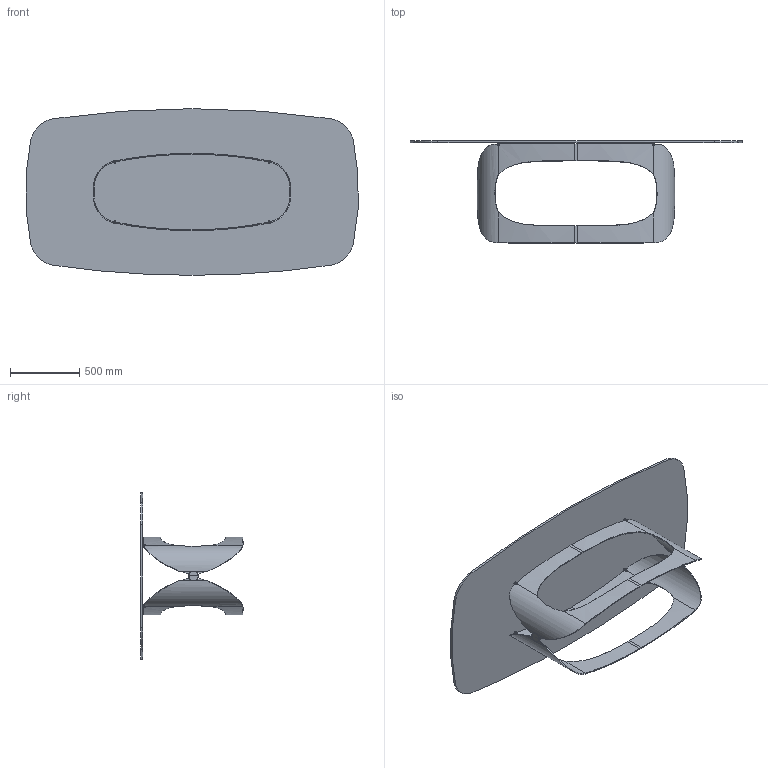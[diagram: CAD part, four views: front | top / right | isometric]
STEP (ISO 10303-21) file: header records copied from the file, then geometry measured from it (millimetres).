
FILE_DESCRIPTION (( 'STEP AP203' ), '1' );
FILE_NAME ('PO43G.STEP', '2024-08-06T14:03:24', ( '' ), ( '' ), 'SwSTEP 2.0', 'SolidWorks 2022', '' );
FILE_SCHEMA (( 'CONFIG_CONTROL_DESIGN' ));
Length unit declared in the file: millimetre
Products named in the file (11): POL000000_02-02-CILINDRO DI FISSAGGIO Ø12X15 M8; C4XCRXX-00-Piani Sagomati in Cristallo_2400 x 1200; POL000000_03-01-POLIFEMO FREGIO COMPLETO; PST0GR022-01-PIASTRA D22x22H mm+FILETTO M8 AVP-AVZ GREZZO; POL000000_03A-01-POLIFEMO FREGIO; PO43G; PVC profilo Polifemo 9x8; POL000000_01-01-MEZZA BASE POLIFEMO X PIANI 200-240_POL000000_03-00-MEZZA BASE PLIFEMO L160; POL000000_03B-00-POLIFEMO FREGIO; POL000000-00-POLIFEMO BASE X PIANI 200-240_POL000000-00-POLIFEMO BASE L160; PVC Ø19x3
Assembly tree (24 placements, depth 3):
  PO43G
    POL000000-00-POLIFEMO BASE X PIANI 200-240_POL000000-00-POLIFEMO BASE L160
      POL000000_01-01-MEZZA BASE POLIFEMO X PIANI 200-240_POL000000_03-00-MEZZA BASE PLIFEMO L160  x2
      POL000000_02-02-CILINDRO DI FISSAGGIO Ø12X15 M8  x4
    POL000000_03-01-POLIFEMO FREGIO COMPLETO  x2
      POL000000_03A-01-POLIFEMO FREGIO
      POL000000_03B-00-POLIFEMO FREGIO
    PST0GR022-01-PIASTRA D22x22H mm+FILETTO M8 AVP-AVZ GREZZO  x4
    PVC Ø19x3  x4
    PVC profilo Polifemo 9x8  x3
    C4XCRXX-00-Piani Sagomati in Cristallo_2400 x 1200
Bounding box: 2391.62 x 739.97 x 1200 mm (x, y, z)
Volume: 47029629.4 mm3; surface area: 7932160.7 mm2
Topology: 24 solids, 24 shells, 477 faces, 1183 edges, 760 vertices
Faces by surface type: cylinder 226, plane 151, bspline 80, cone 20
Entity records: 16791 total; most frequent: CARTESIAN_POINT 11202, ORIENTED_EDGE 910, DIRECTION 764, EDGE_CURVE 455, VERTEX_POINT 292, AXIS2_PLACEMENT_3D 291, EDGE_LOOP 187, LINE 182
